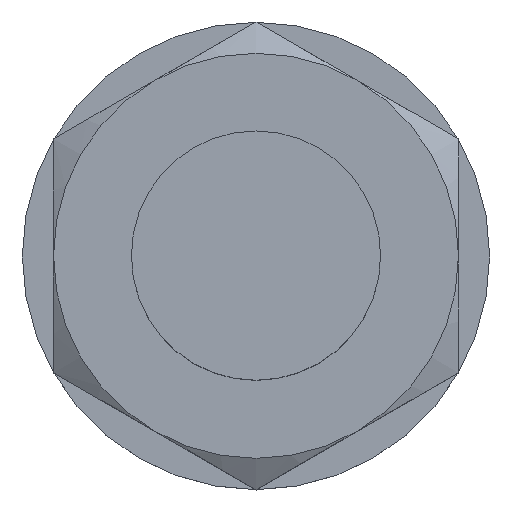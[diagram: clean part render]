
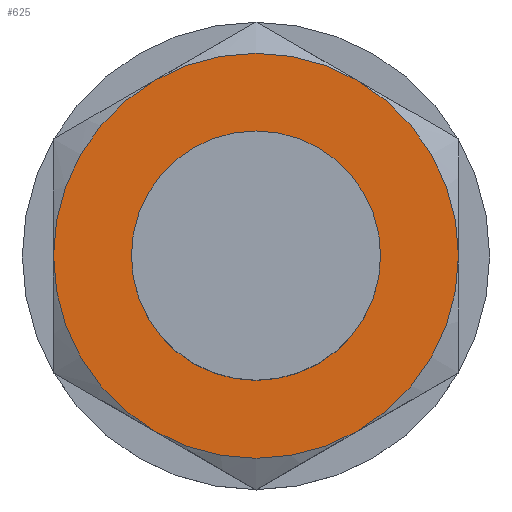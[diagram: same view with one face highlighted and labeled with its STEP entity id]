
A CAD part, top view. The second image highlights one B-rep face of the part: STEP entity #625.
In plain terms, the highlighted planar face has unit normal (0, 0, 1).
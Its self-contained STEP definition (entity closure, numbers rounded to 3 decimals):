
#35 = EDGE_CURVE ( 'NONE', #37, #135, #235, .T. ) ;
#37 = VERTEX_POINT ( 'NONE', #260 ) ;
#43 = ORIENTED_EDGE ( 'NONE', *, *, #1438, .T. ) ;
#92 = VERTEX_POINT ( 'NONE', #977 ) ;
#128 = EDGE_CURVE ( 'NONE', #1026, #155, #1194, .T. ) ;
#135 = VERTEX_POINT ( 'NONE', #545 ) ;
#155 = VERTEX_POINT ( 'NONE', #1780 ) ;
#170 = VERTEX_POINT ( 'NONE', #1939 ) ;
#235 = CIRCLE ( 'NONE', #236, 6.5 ) ;
#236 = AXIS2_PLACEMENT_3D ( 'NONE', #237, #238, #239 ) ;
#237 = CARTESIAN_POINT ( 'NONE',  ( 0., 0., 1.5 ) ) ;
#238 = DIRECTION ( 'NONE',  ( 0., 0., 1. ) ) ;
#239 = DIRECTION ( 'NONE',  ( 1., 0., 0. ) ) ;
#260 = CARTESIAN_POINT ( 'NONE',  ( -3.25, 5.629, 1.5 ) ) ;
#487 = CIRCLE ( 'NONE', #488, 4. ) ;
#488 = AXIS2_PLACEMENT_3D ( 'NONE', #489, #490, #491 ) ;
#489 = CARTESIAN_POINT ( 'NONE',  ( 0., 0., 1.5 ) ) ;
#490 = DIRECTION ( 'NONE',  ( 0., 0., 1. ) ) ;
#491 = DIRECTION ( 'NONE',  ( 1., 0., 0. ) ) ;
#545 = CARTESIAN_POINT ( 'NONE',  ( -6.5, 0., 1.5 ) ) ;
#625 = ADVANCED_FACE ( 'NONE', ( #677, #678 ), #679, .F. ) ;
#677 = FACE_BOUND ( 'NONE', #1461, .T. ) ;
#678 = FACE_OUTER_BOUND ( 'NONE', #1527, .T. ) ;
#679 = PLANE ( 'NONE',  #683 ) ;
#683 = AXIS2_PLACEMENT_3D ( 'NONE', #684, #685, #686 ) ;
#684 = CARTESIAN_POINT ( 'NONE',  ( 6.5, 3.753, 1.5 ) ) ;
#685 = DIRECTION ( 'NONE',  ( 0., 0., -1. ) ) ;
#686 = DIRECTION ( 'NONE',  ( -1., 0., 0. ) ) ;
#700 = EDGE_CURVE ( 'NONE', #135, #1026, #747, .T. ) ;
#747 = CIRCLE ( 'NONE', #748, 6.5 ) ;
#748 = AXIS2_PLACEMENT_3D ( 'NONE', #749, #750, #751 ) ;
#749 = CARTESIAN_POINT ( 'NONE',  ( 0., 0., 1.5 ) ) ;
#750 = DIRECTION ( 'NONE',  ( 0., 0., 1. ) ) ;
#751 = DIRECTION ( 'NONE',  ( 1., 0., 0. ) ) ;
#953 = CARTESIAN_POINT ( 'NONE',  ( -3.25, -5.629, 1.5 ) ) ;
#977 = CARTESIAN_POINT ( 'NONE',  ( 3.25, 5.629, 1.5 ) ) ;
#1026 = VERTEX_POINT ( 'NONE', #953 ) ;
#1064 = ORIENTED_EDGE ( 'NONE', *, *, #700, .T. ) ;
#1098 = CARTESIAN_POINT ( 'NONE',  ( 4., 0., 1.5 ) ) ;
#1121 = CARTESIAN_POINT ( 'NONE',  ( 6.5, 0., 1.5 ) ) ;
#1194 = CIRCLE ( 'NONE', #1195, 6.5 ) ;
#1195 = AXIS2_PLACEMENT_3D ( 'NONE', #1196, #1197, #1198 ) ;
#1196 = CARTESIAN_POINT ( 'NONE',  ( 0., 0., 1.5 ) ) ;
#1197 = DIRECTION ( 'NONE',  ( 0., 0., 1. ) ) ;
#1198 = DIRECTION ( 'NONE',  ( 1., 0., 0. ) ) ;
#1228 = ORIENTED_EDGE ( 'NONE', *, *, #128, .T. ) ;
#1229 = ORIENTED_EDGE ( 'NONE', *, *, #1502, .F. ) ;
#1232 = CIRCLE ( 'NONE', #1233, 6.5 ) ;
#1233 = AXIS2_PLACEMENT_3D ( 'NONE', #1234, #1235, #1236 ) ;
#1234 = CARTESIAN_POINT ( 'NONE',  ( 0., 0., 1.5 ) ) ;
#1235 = DIRECTION ( 'NONE',  ( 0., 0., 1. ) ) ;
#1236 = DIRECTION ( 'NONE',  ( 1., 0., 0. ) ) ;
#1253 = CIRCLE ( 'NONE', #1254, 6.5 ) ;
#1254 = AXIS2_PLACEMENT_3D ( 'NONE', #1255, #1256, #1257 ) ;
#1255 = CARTESIAN_POINT ( 'NONE',  ( 0., 0., 1.5 ) ) ;
#1256 = DIRECTION ( 'NONE',  ( 0., 0., 1. ) ) ;
#1257 = DIRECTION ( 'NONE',  ( 1., 0., 0. ) ) ;
#1270 = CIRCLE ( 'NONE', #1271, 6.5 ) ;
#1271 = AXIS2_PLACEMENT_3D ( 'NONE', #1272, #1273, #1274 ) ;
#1272 = CARTESIAN_POINT ( 'NONE',  ( 0., 0., 1.5 ) ) ;
#1273 = DIRECTION ( 'NONE',  ( 0., 0., 1. ) ) ;
#1274 = DIRECTION ( 'NONE',  ( 1., 0., 0. ) ) ;
#1341 = VERTEX_POINT ( 'NONE', #1098 ) ;
#1376 = ORIENTED_EDGE ( 'NONE', *, *, #1432, .T. ) ;
#1432 = EDGE_CURVE ( 'NONE', #1578, #92, #1232, .T. ) ;
#1438 = EDGE_CURVE ( 'NONE', #92, #37, #1253, .T. ) ;
#1440 = EDGE_CURVE ( 'NONE', #155, #1578, #1270, .T. ) ;
#1448 = EDGE_CURVE ( 'NONE', #170, #1341, #487, .T. ) ;
#1461 = EDGE_LOOP ( 'NONE', ( #1509, #1229 ) ) ;
#1502 = EDGE_CURVE ( 'NONE', #1341, #170, #2047, .T. ) ;
#1509 = ORIENTED_EDGE ( 'NONE', *, *, #1448, .F. ) ;
#1527 = EDGE_LOOP ( 'NONE', ( #1555, #1064, #1228, #1650, #1376, #43 ) ) ;
#1555 = ORIENTED_EDGE ( 'NONE', *, *, #35, .T. ) ;
#1578 = VERTEX_POINT ( 'NONE', #1121 ) ;
#1650 = ORIENTED_EDGE ( 'NONE', *, *, #1440, .T. ) ;
#1780 = CARTESIAN_POINT ( 'NONE',  ( 3.25, -5.629, 1.5 ) ) ;
#1939 = CARTESIAN_POINT ( 'NONE',  ( -4., 0., 1.5 ) ) ;
#2047 = CIRCLE ( 'NONE', #2048, 4. ) ;
#2048 = AXIS2_PLACEMENT_3D ( 'NONE', #2049, #2050, #2051 ) ;
#2049 = CARTESIAN_POINT ( 'NONE',  ( 0., 0., 1.5 ) ) ;
#2050 = DIRECTION ( 'NONE',  ( 0., 0., 1. ) ) ;
#2051 = DIRECTION ( 'NONE',  ( 1., 0., 0. ) ) ;
